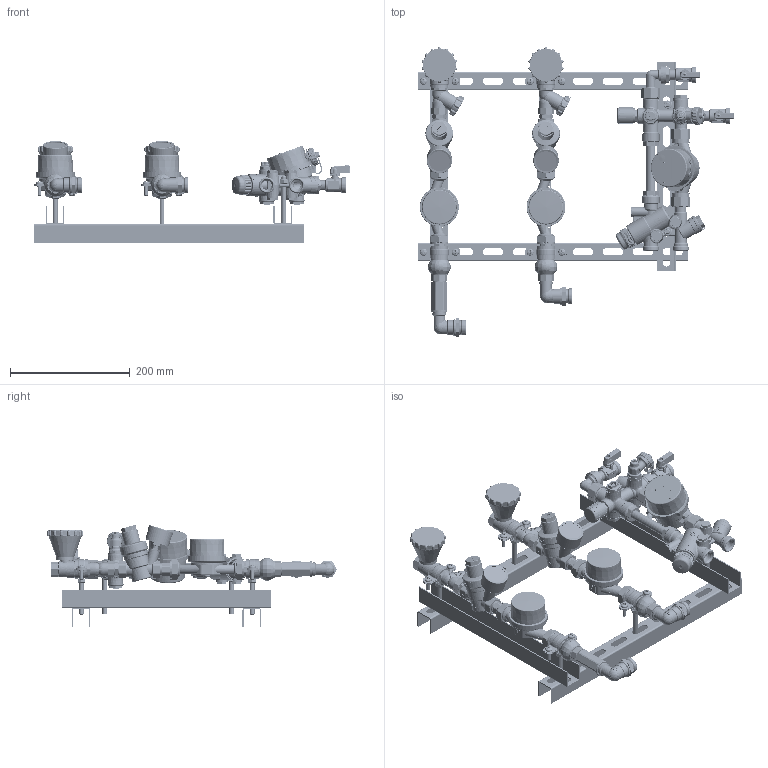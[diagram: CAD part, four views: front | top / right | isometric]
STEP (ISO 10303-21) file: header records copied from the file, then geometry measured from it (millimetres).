
FILE_DESCRIPTION(('STEP AP242'), '1');
FILE_NAME('覆.494726.017.000 捘 - VT.LB.HD.M0', '', ('UNSPECIFIED'), ('UNSPECIFIED'), 'C3D Converter', 'C3D Toolkit', '');
FILE_SCHEMA(('AP242_MANAGED_MODEL_BASED_3D_ENGINEERING_MIM_LF { 1 0 10303 442 1 1 4 }'));
Length unit declared in the file: millimetre
Products named in the file (239): ВР.494726.017.000 СБ; ВР.494726.013.001 СБ; ВР.494726.012.001 СБ; ВР.494726.002.001.002 СБ; ВР.731371.001; ВР.725140.002; ВР.753125.023; ВР.758421.046; ВР.753612.008; ВР.305319.007.000 СБ; ВР.753125.011; ВР.305319.008.000 СБ; ВР.753125.012; ВР.494726.012.001.001 СБ; ВР.731378.002; ВР.731378.002П; ВР.305319.003.000 СБ; ВР.752513.005; ВР.493619.002.000 СБ; ВР.753191.001; ВР.713161.001; ВР.712221.001; ВР.493619.002.001 СБ; ВР.753157.001; ВР.493619.002.002 СБ; ВР.716623.001; ВР.753512.018; ВР.494726.002.005 СБ; ВР.713791.001; ВР.407223.001.000 СБ; ВР.407223.001.002 СБ; ВР.731464.002; ВР.753182.016; ВР.714411.001; ВР.715113.003; ВР.407223.001.002.002 СБ; ВР.753192.014; ВР.715113.002; ВР.711141.021; ВР.713121.002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
Assembly tree (301 placements, depth 8):
  ВР.494726.017.000 СБ
    ВР.494726.013.001 СБ
      ВР.494726.012.001 СБ
        ВР.494726.002.001.002 СБ
          ВР.731371.001
          ВР.725140.002
          (unnamed)
            ВР.753125.023
            (unnamed)
          ВР.758421.046
          ВР.753612.008
          ВР.305319.007.000 СБ
            ВР.753125.011
            (unnamed)
          ВР.305319.008.000 СБ  x2
            ВР.753125.012
            (unnamed)
        ВР.494726.012.001.001 СБ
          ВР.731378.002
            ВР.731378.002П
          ВР.758421.046
          ВР.753612.008
          ВР.305319.003.000 СБ
            ВР.752513.005
            (unnamed)
          ВР.493619.002.000 СБ
            ВР.753191.001
            ВР.713161.001
            ВР.712221.001
            (unnamed)
            ВР.493619.002.001 СБ
              ВР.753157.001
              (unnamed)
              (unnamed)
              (unnamed)
            ВР.493619.002.002 СБ
              ВР.716623.001
              (unnamed)
            ВР.753512.018
          ВР.494726.002.005 СБ  x2
            ВР.713791.001
            (unnamed)
        ВР.407223.001.000 СБ
          ВР.407223.001.002 СБ
            ВР.731464.002
            ВР.753182.016
            ВР.714411.001
              ВР.715113.003
            ВР.407223.001.002.002 СБ
              ВР.753192.014
                ВР.715113.002
              ВР.711141.021
              ВР.713121.002
            ВР.711141.022
            ВР.407223.001.002.001 СБ
              ВР.753181.009
              ВР.713141.002
            (unnamed)
            ВР.711141.023
            ВР.711242.002
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Bounding box: 527.22 x 483.5 x 170.04 mm (x, y, z)
Volume: 1497198.2 mm3; surface area: 1180433.9 mm2
Topology: 354 solids, 357 shells, 28533 faces, 77084 edges, 50710 vertices
Faces by surface type: plane 11351, extrusion 7556, cylinder 5881, cone 1673, bspline 1155, torus 834, sphere 83
Full cylindrical faces by diameter (mm): 0.4 x4, 0.6 x23, 0.7 x2, 0.8 x12, 1 x10, 1.1 x308, 1.2 x23, 1.3 x15, 1.5 x53, 1.55 x2, 1.6 x23, 1.66 x4, 1.7 x3, 1.8 x10, 1.9 x5, 2 x33, 2.1 x4, 2.2 x11, 2.3 x3, 2.4 x2, 2.5 x13, 2.6 x1, 2.7 x2, 2.8 x1, 3 x74, 3.242 x2, 3.4 x35, 3.5 x10, 3.6 x5, 3.8 x5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
Entity records: 756489 total; most frequent: CARTESIAN_POINT 360791, ORIENTED_EDGE 82396, DIRECTION 63446, EDGE_CURVE 41203, VERTEX_POINT 27939, VECTOR 22894, AXIS2_PLACEMENT_3D 20276, EDGE_LOOP 19304
